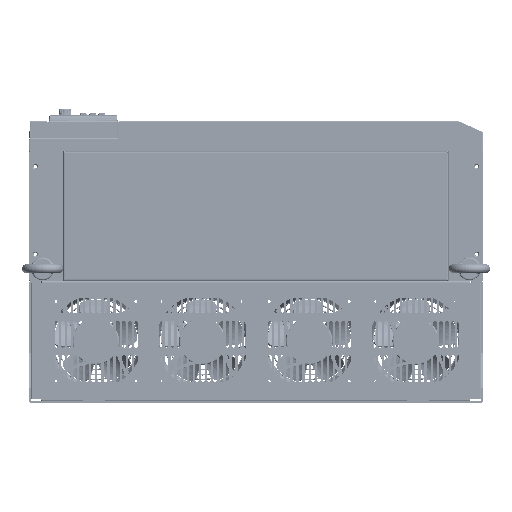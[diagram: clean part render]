
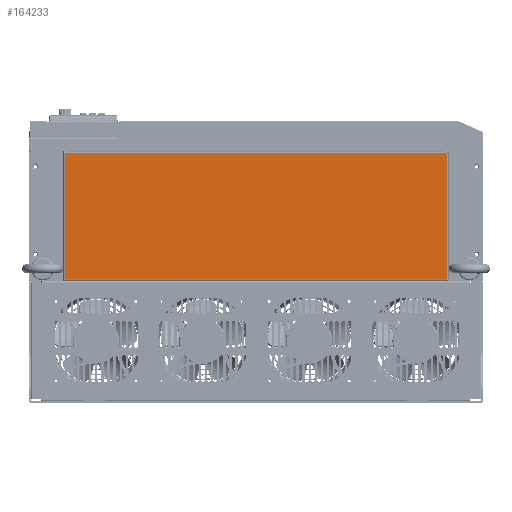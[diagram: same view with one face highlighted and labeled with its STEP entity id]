
A CAD part, front view. The second image highlights one B-rep face of the part: STEP entity #164233.
In plain terms, the highlighted planar face has unit normal (0, -1, 0).
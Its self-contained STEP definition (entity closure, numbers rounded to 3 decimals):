
#134814=DIRECTION('',(0.,0.,-1.));
#134815=VECTOR('',#134814,501.);
#134816=CARTESIAN_POINT('',(-83.,0.,250.5));
#134817=LINE('',#134816,#134815);
#134860=DIRECTION('',(-1.,0.,0.));
#134861=VECTOR('',#134860,166.);
#134862=CARTESIAN_POINT('',(83.,0.,250.5));
#134863=LINE('',#134862,#134861);
#138902=DIRECTION('',(1.,0.,0.));
#138903=VECTOR('',#138902,166.);
#138904=CARTESIAN_POINT('',(-83.,0.,-250.5));
#138905=LINE('',#138904,#138903);
#140418=DIRECTION('',(0.,0.,1.));
#140419=VECTOR('',#140418,501.);
#140420=CARTESIAN_POINT('',(83.,0.,-250.5));
#140421=LINE('',#140420,#140419);
#158274=CARTESIAN_POINT('',(-83.,0.,250.5));
#158275=VERTEX_POINT('',#158274);
#158285=CARTESIAN_POINT('',(-83.,0.,-250.5));
#158286=VERTEX_POINT('',#158285);
#158288=CARTESIAN_POINT('',(83.,0.,250.5));
#158289=VERTEX_POINT('',#158288);
#158290=CARTESIAN_POINT('',(83.,0.,-250.5));
#158291=VERTEX_POINT('',#158290);
#164219=CARTESIAN_POINT('',(-85.,0.,252.5));
#164220=DIRECTION('',(0.,-1.,0.));
#164221=DIRECTION('',(0.,0.,-1.));
#164222=AXIS2_PLACEMENT_3D('',#164219,#164220,#164221);
#164223=PLANE('',#164222);
#164224=ORIENTED_EDGE('',*,*,#164213,.F.);
#164226=ORIENTED_EDGE('',*,*,#164225,.F.);
#164228=ORIENTED_EDGE('',*,*,#164227,.F.);
#164230=ORIENTED_EDGE('',*,*,#164229,.F.);
#164231=EDGE_LOOP('',(#164224,#164226,#164228,#164230));
#164232=FACE_OUTER_BOUND('',#164231,.F.);
#164213=EDGE_CURVE('',#158275,#158286,#134817,.T.);
#164225=EDGE_CURVE('',#158289,#158275,#134863,.T.);
#164227=EDGE_CURVE('',#158291,#158289,#140421,.T.);
#164229=EDGE_CURVE('',#158286,#158291,#138905,.T.);
#164233=ADVANCED_FACE('',(#164232),#164223,.T.);
